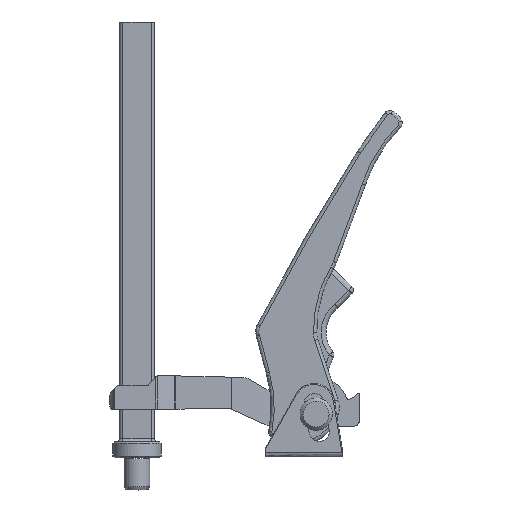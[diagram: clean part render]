
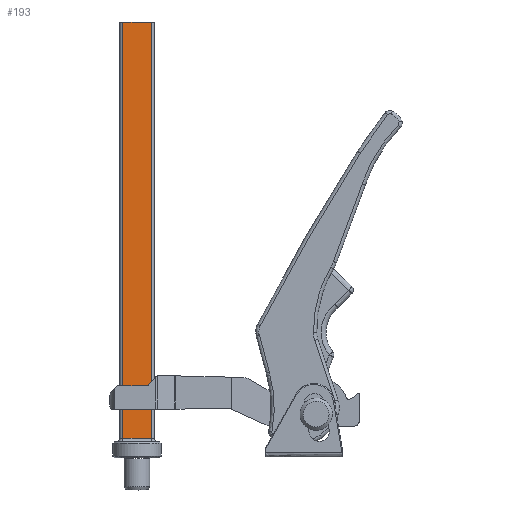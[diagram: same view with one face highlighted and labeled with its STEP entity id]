
A CAD part, front view. The second image highlights one B-rep face of the part: STEP entity #193.
In plain terms, the highlighted free-form (B-spline) face has degree [1, 1] with [2, 2] control points.
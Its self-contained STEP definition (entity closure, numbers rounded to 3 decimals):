
#61=CARTESIAN_POINT('',(-8.701,-4.3,265.));
#62=VERTEX_POINT('',#61);
#69=CARTESIAN_POINT('',(8.701,-4.3,265.));
#70=VERTEX_POINT('',#69);
#71=CARTESIAN_POINT('',(-8.701,-4.3,265.));
#72=CARTESIAN_POINT('',(8.701,-4.3,265.));
#73=B_SPLINE_CURVE_WITH_KNOTS('',1,(#71,#72),.POLYLINE_FORM.,.F.,.U.,(2,2),(0.,1.),.UNSPECIFIED.);
#74=EDGE_CURVE('',#62,#70,#73,.T.);
#154=CARTESIAN_POINT('',(-8.701,-4.3,7.));
#155=VERTEX_POINT('',#154);
#162=CARTESIAN_POINT('',(-8.701,-4.3,7.));
#163=CARTESIAN_POINT('',(-8.701,-4.3,265.));
#164=B_SPLINE_CURVE_WITH_KNOTS('',1,(#162,#163),.POLYLINE_FORM.,.F.,.U.,(2,2),(0.029,1.),.UNSPECIFIED.);
#165=EDGE_CURVE('',#155,#62,#164,.T.);
#172=CARTESIAN_POINT('',(-8.701,-4.3,-0.6));
#173=CARTESIAN_POINT('',(-8.701,-4.3,265.));
#174=CARTESIAN_POINT('',(8.701,-4.3,-0.6));
#175=CARTESIAN_POINT('',(8.701,-4.3,265.));
#176=B_SPLINE_SURFACE_WITH_KNOTS('',1,1,((#172,#173),(#174,#175)),.PLANE_SURF.,.F.,.F.,.U.,(2,2),(2,2),(0.,1.),(0.,1.),.UNSPECIFIED.);
#177=CARTESIAN_POINT('',(8.701,-4.3,7.));
#178=VERTEX_POINT('',#177);
#179=CARTESIAN_POINT('',(-8.701,-4.3,7.));
#180=CARTESIAN_POINT('',(8.701,-4.3,7.));
#181=B_SPLINE_CURVE_WITH_KNOTS('',1,(#179,#180),.POLYLINE_FORM.,.F.,.U.,(2,2),(0.,1.),.UNSPECIFIED.);
#182=EDGE_CURVE('',#155,#178,#181,.T.);
#183=ORIENTED_EDGE('',*,*,#182,.T.);
#184=CARTESIAN_POINT('',(8.701,-4.3,7.));
#185=CARTESIAN_POINT('',(8.701,-4.3,265.));
#186=B_SPLINE_CURVE_WITH_KNOTS('',1,(#184,#185),.POLYLINE_FORM.,.F.,.U.,(2,2),(0.029,1.),.UNSPECIFIED.);
#187=EDGE_CURVE('',#178,#70,#186,.T.);
#188=ORIENTED_EDGE('',*,*,#187,.T.);
#189=ORIENTED_EDGE('',*,*,#74,.F.);
#190=ORIENTED_EDGE('',*,*,#165,.F.);
#191=EDGE_LOOP('',(#183,#188,#189,#190));
#192=FACE_OUTER_BOUND('',#191,.T.);
#193=ADVANCED_FACE('',(#192),#176,.T.);
